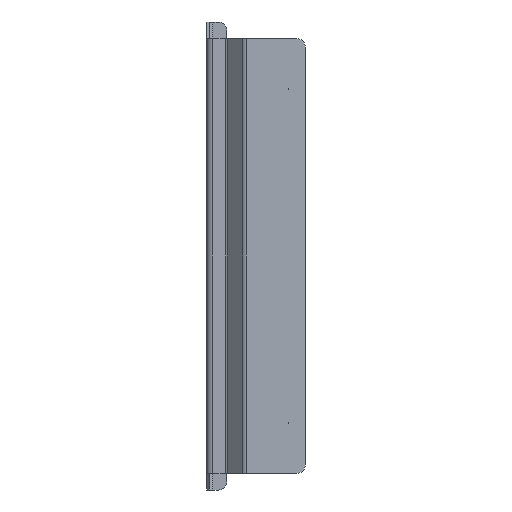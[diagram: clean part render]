
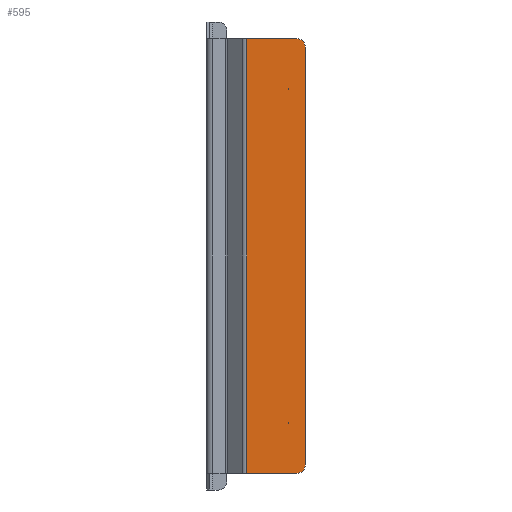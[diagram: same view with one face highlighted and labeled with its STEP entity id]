
A CAD part, left-side view. The second image highlights one B-rep face of the part: STEP entity #595.
In plain terms, the highlighted planar face has unit normal (-1, 0, 0).
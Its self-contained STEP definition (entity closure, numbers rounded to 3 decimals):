
#22 = ORIENTED_EDGE ( 'NONE', *, *, #1328, .F. ) ;
#47 = ORIENTED_EDGE ( 'NONE', *, *, #467, .F. ) ;
#69 = CARTESIAN_POINT ( 'NONE',  ( -34.498, 76.5, 140. ) ) ;
#93 = CARTESIAN_POINT ( 'NONE',  ( -34.498, 75.05, 130. ) ) ;
#99 = CIRCLE ( 'NONE', #1294, 0.25 ) ;
#107 = VERTEX_POINT ( 'NONE', #1398 ) ;
#129 = DIRECTION ( 'NONE',  ( 0., 0., -1. ) ) ;
#136 = VERTEX_POINT ( 'NONE', #267 ) ;
#143 = ORIENTED_EDGE ( 'NONE', *, *, #525, .T. ) ;
#161 = CARTESIAN_POINT ( 'NONE',  ( -34.498, 49.8, 100. ) ) ;
#167 = ORIENTED_EDGE ( 'NONE', *, *, #569, .T. ) ;
#204 = DIRECTION ( 'NONE',  ( -1., 0., 0. ) ) ;
#234 = ORIENTED_EDGE ( 'NONE', *, *, #630, .T. ) ;
#259 = AXIS2_PLACEMENT_3D ( 'NONE', #1432, #751, #313 ) ;
#264 = DIRECTION ( 'NONE',  ( 0., -1., 0. ) ) ;
#266 = EDGE_CURVE ( 'NONE', #789, #571, #1238, .T. ) ;
#267 = CARTESIAN_POINT ( 'NONE',  ( -34.498, 40.05, 125. ) ) ;
#281 = AXIS2_PLACEMENT_3D ( 'NONE', #371, #816, #264 ) ;
#313 = DIRECTION ( 'NONE',  ( 0., 0., 1. ) ) ;
#325 = CARTESIAN_POINT ( 'NONE',  ( -34.498, 76.5, 130. ) ) ;
#344 = LINE ( 'NONE', #669, #517 ) ;
#368 = CARTESIAN_POINT ( 'NONE',  ( -34.498, 45.05, 130. ) ) ;
#371 = CARTESIAN_POINT ( 'NONE',  ( -34.498, 50.05, -100. ) ) ;
#376 = DIRECTION ( 'NONE',  ( -1., 0., 0. ) ) ;
#394 = CARTESIAN_POINT ( 'NONE',  ( -34.498, 40.05, -140. ) ) ;
#401 = VECTOR ( 'NONE', #129, 1000. ) ;
#417 = FACE_OUTER_BOUND ( 'NONE', #1189, .T. ) ;
#441 = ORIENTED_EDGE ( 'NONE', *, *, #761, .F. ) ;
#467 = EDGE_CURVE ( 'NONE', #925, #925, #701, .T. ) ;
#500 = EDGE_LOOP ( 'NONE', ( #441 ) ) ;
#517 = VECTOR ( 'NONE', #1338, 1000. ) ;
#525 = EDGE_CURVE ( 'NONE', #571, #107, #529, .T. ) ;
#529 = LINE ( 'NONE', #758, #883 ) ;
#569 = EDGE_CURVE ( 'NONE', #1319, #1382, #957, .T. ) ;
#571 = VERTEX_POINT ( 'NONE', #93 ) ;
#583 = VERTEX_POINT ( 'NONE', #161 ) ;
#587 = CARTESIAN_POINT ( 'NONE',  ( -34.498, 45.05, -130. ) ) ;
#590 = AXIS2_PLACEMENT_3D ( 'NONE', #813, #376, #1139 ) ;
#595 = ADVANCED_FACE ( 'NONE', ( #417, #1324, #733 ), #1182, .T. ) ;
#616 = VECTOR ( 'NONE', #773, 1000. ) ;
#628 = DIRECTION ( 'NONE',  ( 0., 0., -1. ) ) ;
#630 = EDGE_CURVE ( 'NONE', #107, #1319, #344, .T. ) ;
#669 = CARTESIAN_POINT ( 'NONE',  ( -34.498, 76.5, -130. ) ) ;
#701 = CIRCLE ( 'NONE', #281, 0.25 ) ;
#722 = CARTESIAN_POINT ( 'NONE',  ( -34.498, 49.8, -100. ) ) ;
#733 = FACE_BOUND ( 'NONE', #500, .T. ) ;
#751 = DIRECTION ( 'NONE',  ( -1., 0., 0. ) ) ;
#758 = CARTESIAN_POINT ( 'NONE',  ( -34.498, 75.05, 140. ) ) ;
#761 = EDGE_CURVE ( 'NONE', #583, #583, #99, .T. ) ;
#764 = CARTESIAN_POINT ( 'NONE',  ( -34.498, 50.05, 100. ) ) ;
#773 = DIRECTION ( 'NONE',  ( 0., 1., 0. ) ) ;
#789 = VERTEX_POINT ( 'NONE', #368 ) ;
#793 = EDGE_CURVE ( 'NONE', #136, #789, #1224, .T. ) ;
#813 = CARTESIAN_POINT ( 'NONE',  ( -34.498, 45.05, 125. ) ) ;
#816 = DIRECTION ( 'NONE',  ( -1., 0., 0. ) ) ;
#856 = ORIENTED_EDGE ( 'NONE', *, *, #793, .T. ) ;
#883 = VECTOR ( 'NONE', #628, 1000. ) ;
#920 = EDGE_LOOP ( 'NONE', ( #47 ) ) ;
#925 = VERTEX_POINT ( 'NONE', #722 ) ;
#957 = CIRCLE ( 'NONE', #259, 5. ) ;
#1139 = DIRECTION ( 'NONE',  ( 0., 0., 1. ) ) ;
#1182 = PLANE ( 'NONE',  #1370 ) ;
#1183 = LINE ( 'NONE', #394, #401 ) ;
#1189 = EDGE_LOOP ( 'NONE', ( #22, #856, #1268, #143, #234, #167 ) ) ;
#1204 = CARTESIAN_POINT ( 'NONE',  ( -34.498, 40.05, -125. ) ) ;
#1215 = DIRECTION ( 'NONE',  ( -1., 0., 0. ) ) ;
#1224 = CIRCLE ( 'NONE', #590, 5. ) ;
#1238 = LINE ( 'NONE', #325, #616 ) ;
#1268 = ORIENTED_EDGE ( 'NONE', *, *, #266, .T. ) ;
#1294 = AXIS2_PLACEMENT_3D ( 'NONE', #764, #1215, #1450 ) ;
#1319 = VERTEX_POINT ( 'NONE', #587 ) ;
#1324 = FACE_BOUND ( 'NONE', #920, .T. ) ;
#1328 = EDGE_CURVE ( 'NONE', #136, #1382, #1183, .T. ) ;
#1338 = DIRECTION ( 'NONE',  ( 0., -1., 0. ) ) ;
#1370 = AXIS2_PLACEMENT_3D ( 'NONE', #69, #204, #1437 ) ;
#1382 = VERTEX_POINT ( 'NONE', #1204 ) ;
#1398 = CARTESIAN_POINT ( 'NONE',  ( -34.498, 75.05, -130. ) ) ;
#1432 = CARTESIAN_POINT ( 'NONE',  ( -34.498, 45.05, -125. ) ) ;
#1437 = DIRECTION ( 'NONE',  ( 0., 0., 1. ) ) ;
#1450 = DIRECTION ( 'NONE',  ( 0., -1., 0. ) ) ;
